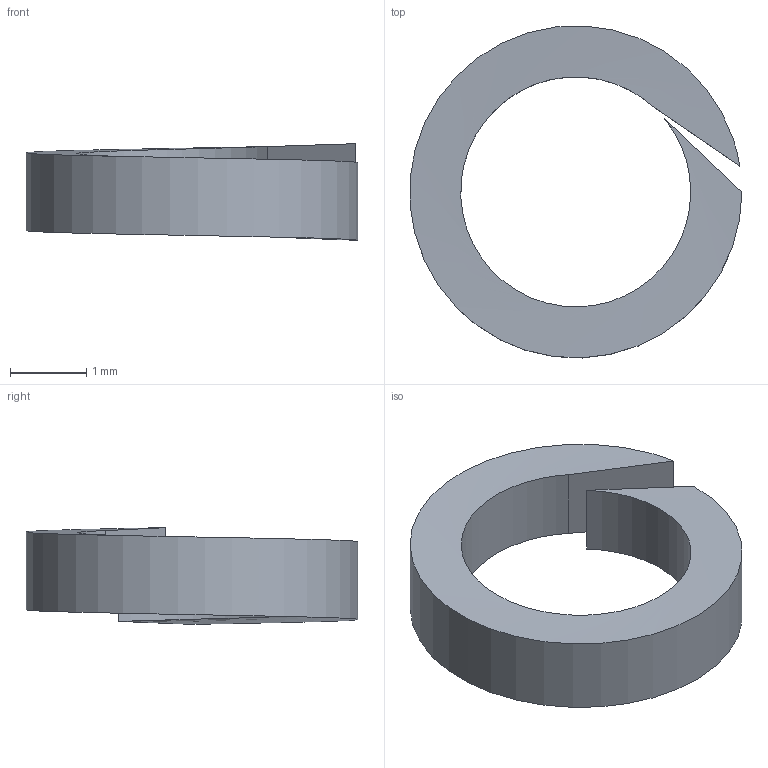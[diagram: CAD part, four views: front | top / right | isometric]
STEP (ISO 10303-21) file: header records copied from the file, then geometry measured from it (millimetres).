
FILE_DESCRIPTION (( 'STEP AP214' ), '1' );
FILE_NAME ('03054-XXrA.STEP', '2011-07-11T14:39:08', ( 'Vicor User' ), ( 'Microsoft' ), 'SwSTEP 2.0', 'SolidWorks 2010', '' );
FILE_SCHEMA (( 'AUTOMOTIVE_DESIGN' ));
Length unit declared in the file: inch
Products named in the file (1): 03054-XXrA
Bounding box: 4.34 x 4.34 x 1.26 mm (x, y, z)
Volume: 7.4 mm3; surface area: 40 mm2
Topology: 1 solids, 1 shells, 6 faces, 12 edges, 8 vertices
Faces by surface type: plane 2, bspline 2, cylinder 2
Entity records: 274 total; most frequent: CARTESIAN_POINT 125, ORIENTED_EDGE 24, DIRECTION 18, EDGE_CURVE 12, VERTEX_POINT 8, LINE 8, VECTOR 8, ADVANCED_FACE 6
